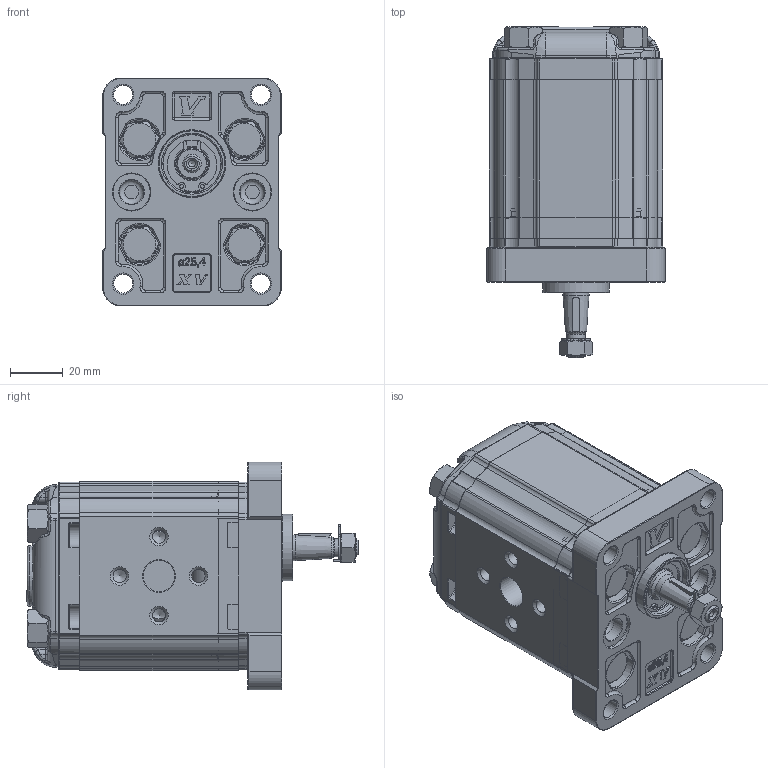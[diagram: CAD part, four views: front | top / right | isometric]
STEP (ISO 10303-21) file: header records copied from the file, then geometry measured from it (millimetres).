
FILE_DESCRIPTION( ( 'Unknown' ), '1' );
FILE_NAME( 'P:/montaggio_easy/output/STP/X1M3101FIIF.stp', 'Unknown', ( 'Unknown' ), ( 'Unknown' ), 'PSStep 14.0', 'Unknown', ' ' );
FILE_SCHEMA( ( 'AUTOMOTIVE_DESIGN { 1 0 10303 214 1 1 1 1 }' ) );
Length unit declared in the file: millimetre
Products named in the file (5): Assem1; X1M01; 1F; X1IIH60,5; XM101-F
Bounding box: 68 x 126.4 x 86.7 mm (x, y, z)
Surface area: 154580.8 mm2
Topology: 8 solids, 10 shells, 4028 faces, 10294 edges, 6514 vertices
Faces by surface type: plane 1796, cylinder 1042, torus 458, extrusion 282, cone 222, bspline 212, sphere 16
Full cylindrical faces by diameter (mm): 1.447 x4, 2.5 x4, 3 x8, 5 x16, 7 x4, 7.15 x8, 7.25 x2, 8 x16, 8.5 x12, 9 x4, 9.3 x4, 9.92 x2, 10.5 x4, 11.965 x2, 12 x12, 12.4 x2, 14.5 x4, 15.115 x2, 17.147 x2, 19 x2, 20 x2, 21.8 x2, 22 x4, 22.2 x2, 23 x2, 25.4 x2
Entity records: 83437 total; most frequent: CARTESIAN_POINT 19784, ORIENTED_EDGE 9780, DIRECTION 9672, EDGE_CURVE 4890, AXIS2_PLACEMENT_3D 3453, VERTEX_POINT 3185, VECTOR 2766, LINE 2625
